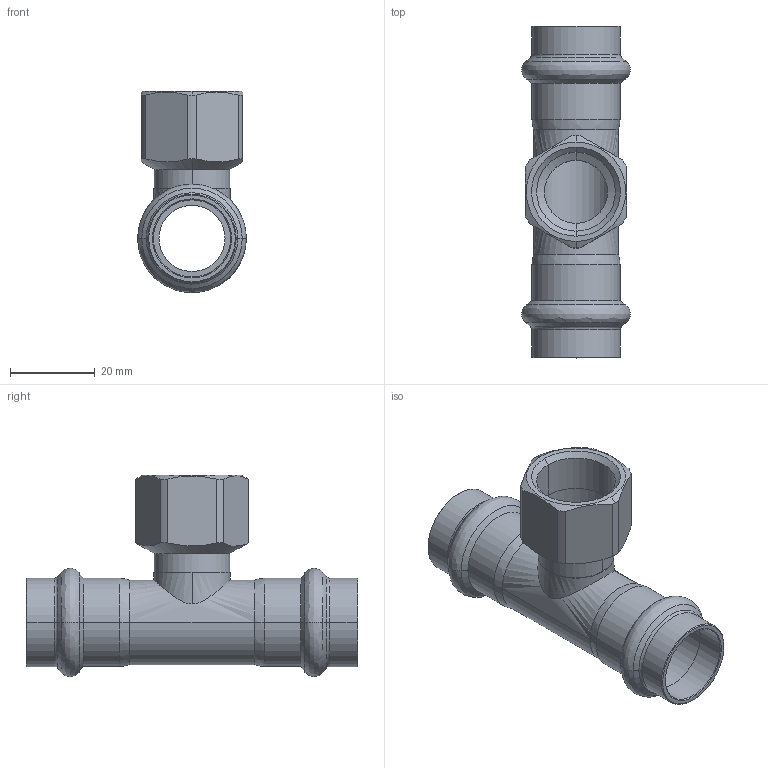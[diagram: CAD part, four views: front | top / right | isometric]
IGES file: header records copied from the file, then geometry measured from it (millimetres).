
Start section: Elysium IGES Interface
Global section: file name: C:\Users\Wallenburg\Desktop\3d modellen sudo\S-Pr VP\SP6130GV\6130GVW181218.igs; native system: CoCreate Modeling 17.00A  17-Jun-2010; preprocessor: CoCreate IGES_3D V2.2; author: Unknown; organization: Unknown; date: 20130117.155034; units: millimetre
Bounding box: 25.7 x 78.51 x 47.64 mm (x, y, z)
Volume: 11637.7 mm3; surface area: 13790.4 mm2
Topology: 1 solids, 1 shells, 117 faces, 255 edges, 147 vertices
Faces by surface type: bspline 117
